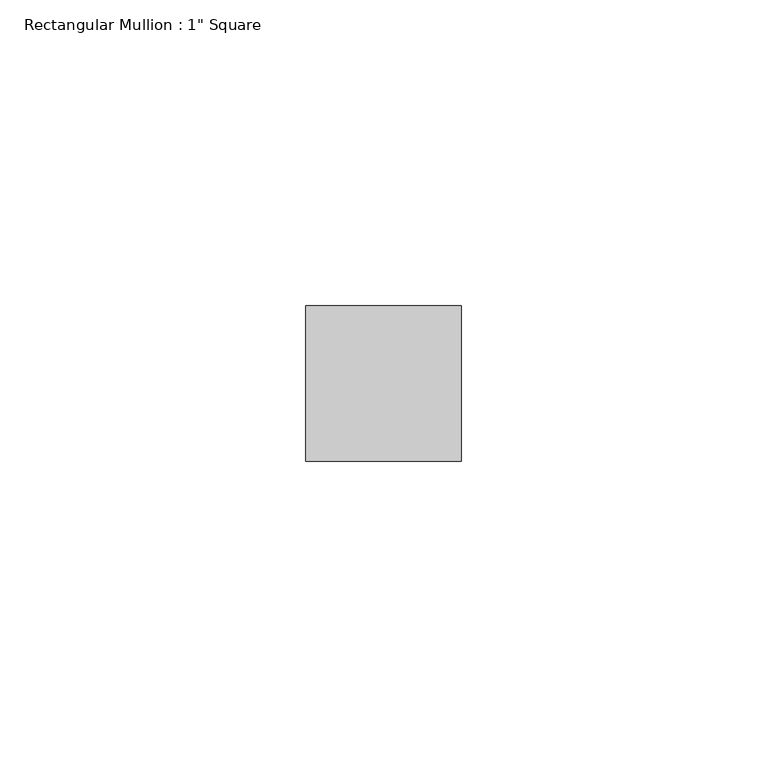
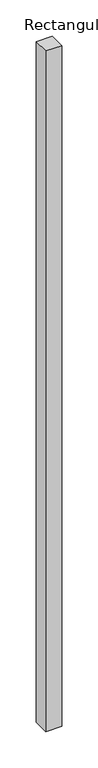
"""IFC4 building model written with IfcOpenShell, lengths in millimetres: member geometry."""

from ifc_helpers import new_model, si_unit, frame, origin, place, context, project, spatial, polyline, outline, extrude, source, transform, mapped, element, save


def member_a32a9cac(model_context):
    return source(origin(), model_context, "Body", "SweptSolid", [
        extrude(outline(polyline([(12.7, 12.7), (12.7, -12.7), (-12.7, -12.7), (-12.7, 12.7), (12.7, 12.7)])), frame((0.0, 0.0, -1143.4246465), z_axis=(0.0, 0.0, 1.0), x_axis=(1.0, 0.0, 0.0)), (0.0, 0.0, 1.0), 1143.4246465),
    ])


if __name__ == "__main__":
    model = new_model("IFC4")
    model_context = context("Model", 3, world=origin())
    ifc_project = project(units=[si_unit("LENGTHUNIT", "METRE", prefix="MILLI")], contexts=[model_context])
    site = spatial("IfcSite", under=ifc_project)
    building = spatial("IfcBuilding", under=site)
    placement = place(None, origin())
    member_shape = member_a32a9cac(model_context)
    element("IfcMember", 1, ObjectType="Rectangular Mullion : 1\" Square", at=placement, inside=building, context=model_context, shape_type="MappedRepresentation", body=[
        mapped(member_shape, transform((0.0, 0.0, 0.0), x_axis=(1.0, 0.0, 0.0), y_axis=(0.0, 1.0, 0.0), z_axis=(0.0, 0.0, 1.0))),
    ])
    save(model, "model.ifc")
